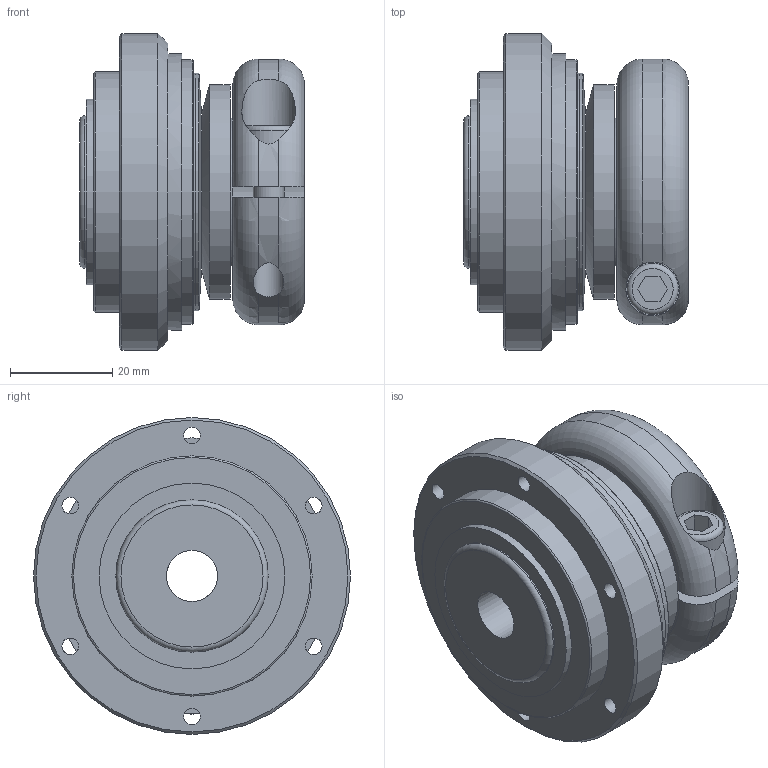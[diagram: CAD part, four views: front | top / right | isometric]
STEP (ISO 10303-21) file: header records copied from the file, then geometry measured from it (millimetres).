
FILE_DESCRIPTION(/* description */ ('Unknown'),/* implementation_level */ '2;1');
FILE_NAME(/* name */ 'SKVA-K 25',/* time_stamp */ '2025-02-12T11:55:42+01:00',/* author */ ('Unknown'),/* organization */ ('Unknown'),/* preprocessor_version */ 'ST-DEVELOPER v18.102',/* originating_system */ 'Solid Edge',/* authorisation */ 'Unknown');
FILE_SCHEMA (('AUTOMOTIVE_DESIGN {1 0 10303 214 3 1 1}'));
Length unit declared in the file: millimetre
Products named in the file (1): SKVA-K  25
Bounding box: 44 x 62 x 62 mm (x, y, z)
Volume: 83006.6 mm3; surface area: 18973.8 mm2
Topology: 1 solids, 1 shells, 72 faces, 178 edges, 111 vertices
Faces by surface type: plane 36, cylinder 20, cone 11, torus 5
Full cylindrical faces by diameter (mm): 3.242 x6, 6 x2, 10 x2, 10.5 x1, 29.997 x1, 36.321 x1, 41.997 x1, 51.7 x1, 54 x1, 62 x1
Entity records: 2484 total; most frequent: CARTESIAN_POINT 391, DIRECTION 350, ORIENTED_EDGE 268, AXIS2_PLACEMENT_3D 161, EDGE_CURVE 134, EDGE_LOOP 122, FACE_BOUND 122, VERTEX_POINT 98
